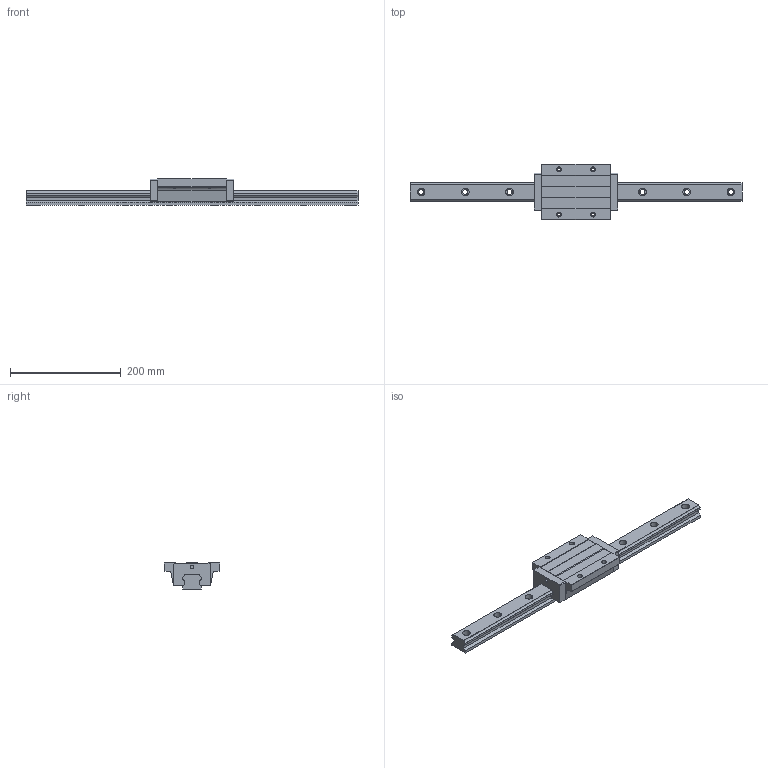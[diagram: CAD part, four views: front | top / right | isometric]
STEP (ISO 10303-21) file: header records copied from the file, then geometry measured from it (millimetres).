
FILE_DESCRIPTION (( 'STEP AP203' ), '1' );
FILE_NAME ('TRH35FE-XNC.STEP', '2024-08-16T05:53:39', ( '' ), ( '' ), 'SwSTEP 2.0', 'SolidWorks 2021', '' );
FILE_SCHEMA (( 'CONFIG_CONTROL_DESIGN' ));
Length unit declared in the file: millimetre
Products named in the file (1): TRH35FE-XNC
Bounding box: 600 x 100 x 48 mm (x, y, z)
Volume: 829306.7 mm3; surface area: 131902 mm2
Topology: 1 solids, 1 shells, 186 faces, 524 edges, 344 vertices
Faces by surface type: plane 96, cylinder 90
Entity records: 6429 total; most frequent: CARTESIAN_POINT 1315, DIRECTION 1070, ORIENTED_EDGE 1048, EDGE_CURVE 524, AXIS2_PLACEMENT_3D 367, VERTEX_POINT 344, VECTOR 336, LINE 336
